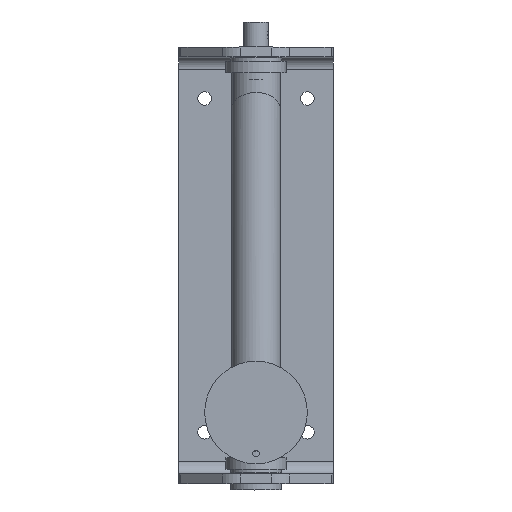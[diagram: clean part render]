
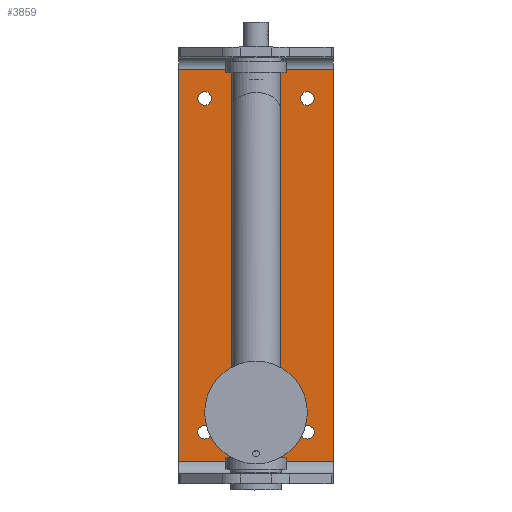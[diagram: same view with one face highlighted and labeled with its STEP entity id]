
A CAD part, top view. The second image highlights one B-rep face of the part: STEP entity #3859.
In plain terms, the highlighted planar face has unit normal (0, 0, 1).
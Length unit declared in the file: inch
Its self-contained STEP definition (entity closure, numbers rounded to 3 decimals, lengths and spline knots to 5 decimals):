
#44 = VERTEX_POINT ( 'NONE', #3487 ) ;
#120 = CIRCLE ( 'NONE', #2570, 0.26562 ) ;
#123 = DIRECTION ( 'NONE',  ( 1., 0., 0. ) ) ;
#136 = PLANE ( 'NONE',  #1943 ) ;
#150 = EDGE_LOOP ( 'NONE', ( #1856, #2510 ) ) ;
#231 = VERTEX_POINT ( 'NONE', #1619 ) ;
#241 = CARTESIAN_POINT ( 'NONE',  ( 1., 1.625, 0. ) ) ;
#268 = CARTESIAN_POINT ( 'NONE',  ( 1., 14.625, 0. ) ) ;
#311 = CIRCLE ( 'NONE', #887, 0.26562 ) ;
#349 = CARTESIAN_POINT ( 'NONE',  ( 4.73438, 1.625, 0. ) ) ;
#364 = ORIENTED_EDGE ( 'NONE', *, *, #1303, .T. ) ;
#523 = ORIENTED_EDGE ( 'NONE', *, *, #2316, .F. ) ;
#601 = AXIS2_PLACEMENT_3D ( 'NONE', #754, #3375, #2094 ) ;
#646 = CARTESIAN_POINT ( 'NONE',  ( 6., 0., 0. ) ) ;
#667 = CARTESIAN_POINT ( 'NONE',  ( 0.73438, 14.625, 0. ) ) ;
#668 = CARTESIAN_POINT ( 'NONE',  ( 5.26563, 1.625, 0. ) ) ;
#732 = VERTEX_POINT ( 'NONE', #1503 ) ;
#754 = CARTESIAN_POINT ( 'NONE',  ( 1., 1.625, 0. ) ) ;
#767 = FACE_BOUND ( 'NONE', #150, .T. ) ;
#789 = FACE_OUTER_BOUND ( 'NONE', #1164, .T. ) ;
#795 = CARTESIAN_POINT ( 'NONE',  ( 5., 1.625, 0. ) ) ;
#804 = ORIENTED_EDGE ( 'NONE', *, *, #1704, .F. ) ;
#817 = CIRCLE ( 'NONE', #2827, 0.26562 ) ;
#852 = DIRECTION ( 'NONE',  ( 0., 0., 1. ) ) ;
#887 = AXIS2_PLACEMENT_3D ( 'NONE', #1477, #3489, #2520 ) ;
#899 = CARTESIAN_POINT ( 'NONE',  ( 0., 15.75, 0. ) ) ;
#900 = EDGE_CURVE ( 'NONE', #231, #2895, #1925, .T. ) ;
#906 = ORIENTED_EDGE ( 'NONE', *, *, #3620, .F. ) ;
#955 = VERTEX_POINT ( 'NONE', #2285 ) ;
#1006 = EDGE_CURVE ( 'NONE', #1520, #732, #3732, .T. ) ;
#1011 = ORIENTED_EDGE ( 'NONE', *, *, #2730, .F. ) ;
#1031 = EDGE_LOOP ( 'NONE', ( #523, #3654 ) ) ;
#1067 = CARTESIAN_POINT ( 'NONE',  ( 6., 15.75, 0. ) ) ;
#1126 = EDGE_CURVE ( 'NONE', #1871, #44, #311, .T. ) ;
#1127 = DIRECTION ( 'NONE',  ( 1., 0., 0. ) ) ;
#1164 = EDGE_LOOP ( 'NONE', ( #3225, #364, #1011, #1191 ) ) ;
#1191 = ORIENTED_EDGE ( 'NONE', *, *, #1496, .T. ) ;
#1253 = DIRECTION ( 'NONE',  ( -1., 0., 0. ) ) ;
#1260 = DIRECTION ( 'NONE',  ( 1., 0., 0. ) ) ;
#1273 = LINE ( 'NONE', #646, #3249 ) ;
#1277 = EDGE_CURVE ( 'NONE', #2201, #955, #2278, .T. ) ;
#1303 = EDGE_CURVE ( 'NONE', #2201, #2889, #1273, .T. ) ;
#1403 = CARTESIAN_POINT ( 'NONE',  ( 0., 0., 0. ) ) ;
#1477 = CARTESIAN_POINT ( 'NONE',  ( 5., 14.625, 0. ) ) ;
#1496 = EDGE_CURVE ( 'NONE', #3625, #955, #3359, .T. ) ;
#1503 = CARTESIAN_POINT ( 'NONE',  ( 1.26562, 14.625, 0. ) ) ;
#1516 = AXIS2_PLACEMENT_3D ( 'NONE', #241, #4185, #3300 ) ;
#1520 = VERTEX_POINT ( 'NONE', #667 ) ;
#1531 = CIRCLE ( 'NONE', #1661, 0.26562 ) ;
#1582 = AXIS2_PLACEMENT_3D ( 'NONE', #268, #3985, #1260 ) ;
#1619 = CARTESIAN_POINT ( 'NONE',  ( 1.26563, 1.625, 0. ) ) ;
#1626 = DIRECTION ( 'NONE',  ( 0., 1., 0. ) ) ;
#1661 = AXIS2_PLACEMENT_3D ( 'NONE', #795, #3100, #123 ) ;
#1704 = EDGE_CURVE ( 'NONE', #44, #1871, #817, .T. ) ;
#1856 = ORIENTED_EDGE ( 'NONE', *, *, #900, .F. ) ;
#1870 = DIRECTION ( 'NONE',  ( -1., 0., 0. ) ) ;
#1871 = VERTEX_POINT ( 'NONE', #2113 ) ;
#1910 = CARTESIAN_POINT ( 'NONE',  ( 5., 1.625, 0. ) ) ;
#1913 = EDGE_CURVE ( 'NONE', #2589, #3926, #1531, .T. ) ;
#1925 = CIRCLE ( 'NONE', #1516, 0.26563 ) ;
#1942 = CIRCLE ( 'NONE', #2296, 0.26562 ) ;
#1943 = AXIS2_PLACEMENT_3D ( 'NONE', #2521, #2194, #1870 ) ;
#1955 = CARTESIAN_POINT ( 'NONE',  ( 0., 15.75, 0. ) ) ;
#1987 = DIRECTION ( 'NONE',  ( 1., 0., 0. ) ) ;
#2037 = EDGE_LOOP ( 'NONE', ( #906, #3678 ) ) ;
#2094 = DIRECTION ( 'NONE',  ( 1., 0., 0. ) ) ;
#2113 = CARTESIAN_POINT ( 'NONE',  ( 5.26563, 14.625, 0. ) ) ;
#2154 = DIRECTION ( 'NONE',  ( 0., 0., 1. ) ) ;
#2194 = DIRECTION ( 'NONE',  ( 0., 0., -1. ) ) ;
#2201 = VERTEX_POINT ( 'NONE', #2874 ) ;
#2234 = LINE ( 'NONE', #899, #2487 ) ;
#2278 = LINE ( 'NONE', #4233, #3808 ) ;
#2285 = CARTESIAN_POINT ( 'NONE',  ( 0., 0.5, 0. ) ) ;
#2296 = AXIS2_PLACEMENT_3D ( 'NONE', #3560, #2154, #3122 ) ;
#2316 = EDGE_CURVE ( 'NONE', #732, #1520, #1942, .T. ) ;
#2487 = VECTOR ( 'NONE', #1987, 39.37008 ) ;
#2510 = ORIENTED_EDGE ( 'NONE', *, *, #2862, .F. ) ;
#2520 = DIRECTION ( 'NONE',  ( 1., 0., 0. ) ) ;
#2521 = CARTESIAN_POINT ( 'NONE',  ( 0., 0., 0. ) ) ;
#2570 = AXIS2_PLACEMENT_3D ( 'NONE', #1910, #3230, #3579 ) ;
#2589 = VERTEX_POINT ( 'NONE', #349 ) ;
#2730 = EDGE_CURVE ( 'NONE', #3625, #2889, #2234, .T. ) ;
#2827 = AXIS2_PLACEMENT_3D ( 'NONE', #3845, #852, #1127 ) ;
#2862 = EDGE_CURVE ( 'NONE', #2895, #231, #3810, .T. ) ;
#2874 = CARTESIAN_POINT ( 'NONE',  ( 6., 0.5, 0. ) ) ;
#2889 = VERTEX_POINT ( 'NONE', #1067 ) ;
#2895 = VERTEX_POINT ( 'NONE', #3747 ) ;
#2919 = EDGE_LOOP ( 'NONE', ( #3208, #804 ) ) ;
#3100 = DIRECTION ( 'NONE',  ( 0., 0., 1. ) ) ;
#3122 = DIRECTION ( 'NONE',  ( 1., 0., 0. ) ) ;
#3208 = ORIENTED_EDGE ( 'NONE', *, *, #1126, .F. ) ;
#3225 = ORIENTED_EDGE ( 'NONE', *, *, #1277, .F. ) ;
#3230 = DIRECTION ( 'NONE',  ( 0., 0., 1. ) ) ;
#3249 = VECTOR ( 'NONE', #1626, 39.37008 ) ;
#3300 = DIRECTION ( 'NONE',  ( 1., 0., 0. ) ) ;
#3359 = LINE ( 'NONE', #1403, #3597 ) ;
#3375 = DIRECTION ( 'NONE',  ( 0., 0., 1. ) ) ;
#3426 = FACE_BOUND ( 'NONE', #2037, .T. ) ;
#3487 = CARTESIAN_POINT ( 'NONE',  ( 4.73438, 14.625, 0. ) ) ;
#3489 = DIRECTION ( 'NONE',  ( 0., 0., 1. ) ) ;
#3560 = CARTESIAN_POINT ( 'NONE',  ( 1., 14.625, 0. ) ) ;
#3579 = DIRECTION ( 'NONE',  ( 1., 0., 0. ) ) ;
#3597 = VECTOR ( 'NONE', #4038, 39.37008 ) ;
#3620 = EDGE_CURVE ( 'NONE', #3926, #2589, #120, .T. ) ;
#3625 = VERTEX_POINT ( 'NONE', #1955 ) ;
#3654 = ORIENTED_EDGE ( 'NONE', *, *, #1006, .F. ) ;
#3678 = ORIENTED_EDGE ( 'NONE', *, *, #1913, .F. ) ;
#3732 = CIRCLE ( 'NONE', #1582, 0.26562 ) ;
#3747 = CARTESIAN_POINT ( 'NONE',  ( 0.73438, 1.625, 0. ) ) ;
#3758 = FACE_BOUND ( 'NONE', #2919, .T. ) ;
#3781 = FACE_BOUND ( 'NONE', #1031, .T. ) ;
#3808 = VECTOR ( 'NONE', #1253, 39.37008 ) ;
#3810 = CIRCLE ( 'NONE', #601, 0.26563 ) ;
#3845 = CARTESIAN_POINT ( 'NONE',  ( 5., 14.625, 0. ) ) ;
#3859 = ADVANCED_FACE ( 'NONE', ( #3758, #767, #3426, #3781, #789 ), #136, .F. ) ;
#3926 = VERTEX_POINT ( 'NONE', #668 ) ;
#3985 = DIRECTION ( 'NONE',  ( 0., 0., 1. ) ) ;
#4038 = DIRECTION ( 'NONE',  ( 0., -1., 0. ) ) ;
#4185 = DIRECTION ( 'NONE',  ( 0., 0., 1. ) ) ;
#4233 = CARTESIAN_POINT ( 'NONE',  ( 6., 0.5, 0. ) ) ;
